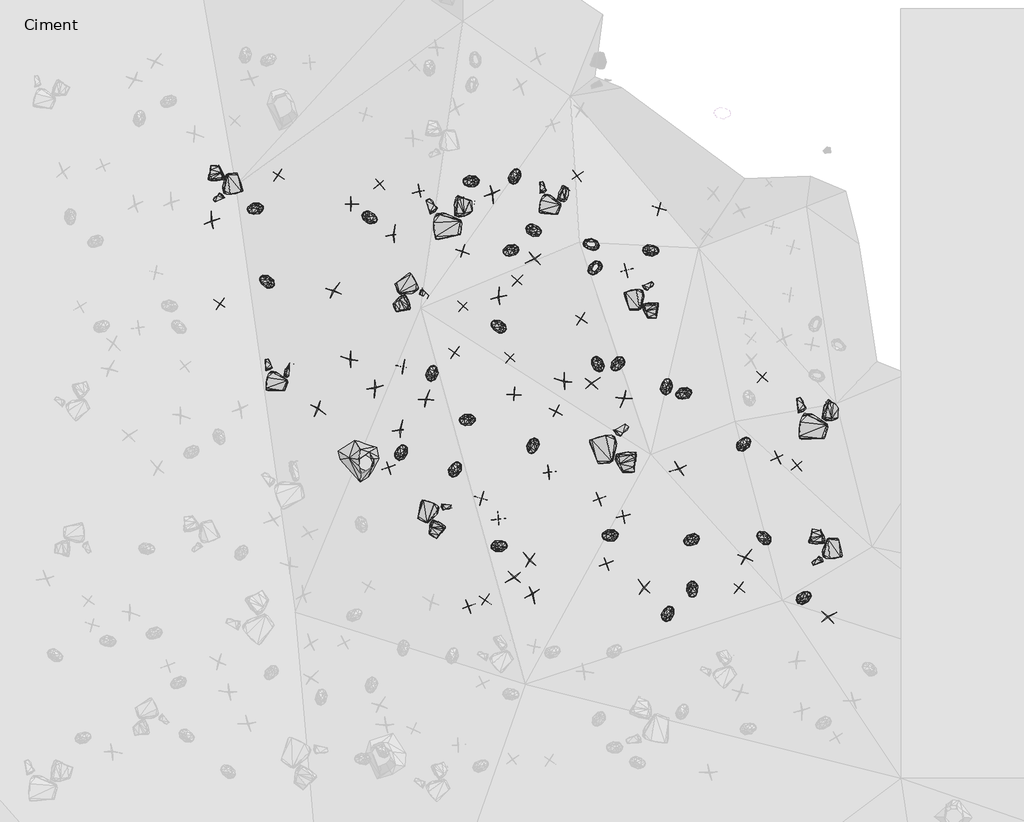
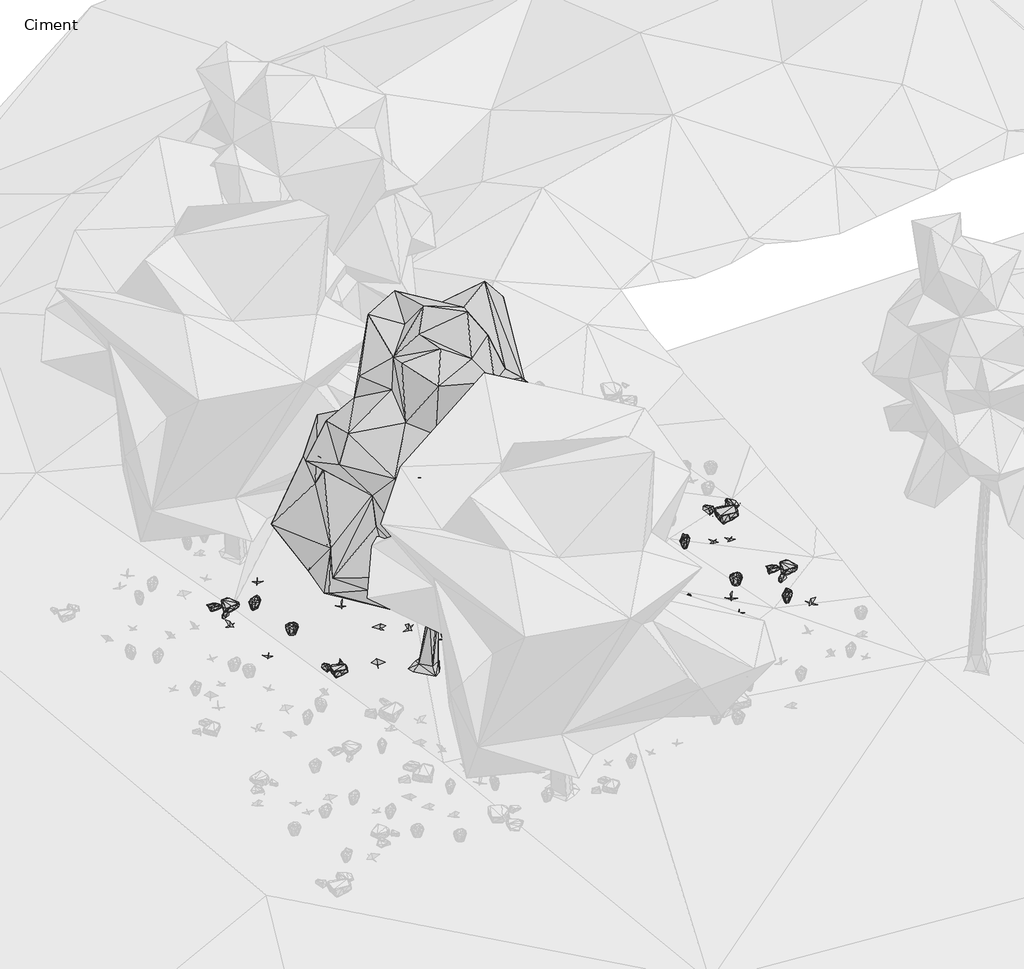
# One storey, part 10 of 30: 90 geographic elements.
"""IFC4 building model written with IfcOpenShell, lengths in millimetres."""

from ifc_helpers import new_model, si_unit, origin, place, context, project, spatial, transform, mapped, element, save
from components import enscape_assetdefinition_bush_025_fern_enscape_5718bf32, enscape_assetdefinition_bush_054_plant_09_version_2_enscape_7b546a12, enscape_assetdefinition_bush_062_plant_09_version_3_enscape_ccf8c8eb, enscape_assetdefinition_deciduous_tree_024_elm_enscape_8f9d8ef3, enscape_assetdefinition_stone_013_group_enscape_516da325, enscape_assetdefinition_stone_013_group_enscape_db9b3e91

model = new_model("IFC4")

# Units and contexts
model_context = context("Model", 3, world=origin())
ifc_project = project(units=[si_unit("LENGTHUNIT", "METRE", prefix="MILLI")], contexts=[model_context])

# Site, building, storey
site = spatial("IfcSite", under=ifc_project)
building = spatial("IfcBuilding", under=site)
storey = spatial("IfcBuildingStorey", under=building, Name="Ciment", Elevation=-1500.0)

# Geographic elements
placement = place(None, origin())
enscape_assetdefinition_bush_025_fern_enscape_shape = enscape_assetdefinition_bush_025_fern_enscape_5718bf32(model_context)
element("IfcGeographicElement", 1, ObjectType="Enscape AssetDefinition - Bush 025 Fern : Enscape AssetDefinition - Bush 025 Fern", at=placement, inside=storey, context=model_context, shape_type="MappedRepresentation", body=[
    mapped(enscape_assetdefinition_bush_025_fern_enscape_shape, transform((-7907.5417519, -3885.7479095, -876.049757), x_axis=(-0.9128690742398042, -0.4082524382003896, 0.0), y_axis=(0.4082524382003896, -0.9128690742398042, 0.0), z_axis=(0.0, 0.0, 1.0))),
])
element("IfcGeographicElement", 2, ObjectType="Enscape AssetDefinition - Bush 025 Fern : Enscape AssetDefinition - Bush 025 Fern", at=placement, inside=storey, context=model_context, shape_type="MappedRepresentation", body=[
    mapped(enscape_assetdefinition_bush_025_fern_enscape_shape, transform((-8446.846962, -1476.3221741, -658.6333513), x_axis=(0.9984156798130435, 0.05626837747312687, 0.0), y_axis=(-0.05626837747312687, 0.9984156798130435, 0.0), z_axis=(0.0, 0.0, 1.0))),
])
element("IfcGeographicElement", 3, ObjectType="Enscape AssetDefinition - Bush 025 Fern : Enscape AssetDefinition - Bush 025 Fern", at=placement, inside=storey, context=model_context, shape_type="MappedRepresentation", body=[
    mapped(enscape_assetdefinition_bush_025_fern_enscape_shape, transform((-10822.6242065, -1471.3115692, -713.2331133), x_axis=(-0.9062165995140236, -0.4228137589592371, 0.0), y_axis=(0.4228137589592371, -0.9062165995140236, 0.0), z_axis=(0.0, 0.0, 1.0))),
])
element("IfcGeographicElement", 4, ObjectType="Enscape AssetDefinition - Bush 025 Fern : Enscape AssetDefinition - Bush 025 Fern", at=placement, inside=storey, context=model_context, shape_type="MappedRepresentation", body=[
    mapped(enscape_assetdefinition_bush_025_fern_enscape_shape, transform((-7755.4244995, -7202.3220062, -1121.0637093), x_axis=(0.14993577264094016, -0.9886957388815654, 0.0), y_axis=(0.9886957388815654, 0.14993577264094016, 0.0), z_axis=(0.0, 0.0, 1.0))),
])
element("IfcGeographicElement", 5, ObjectType="Enscape AssetDefinition - Bush 025 Fern : Enscape AssetDefinition - Bush 025 Fern", at=placement, inside=storey, context=model_context, shape_type="MappedRepresentation", body=[
    mapped(enscape_assetdefinition_bush_025_fern_enscape_shape, transform((-8159.5344543, -7605.1192284, -1189.3703938), x_axis=(0.3196839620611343, 0.9475242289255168, 0.0), y_axis=(-0.9475242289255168, 0.3196839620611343, 0.0), z_axis=(0.0, 0.0, 1.0))),
])
element("IfcGeographicElement", 6, ObjectType="Enscape AssetDefinition - Bush 025 Fern : Enscape AssetDefinition - Bush 025 Fern", at=placement, inside=storey, context=model_context, shape_type="MappedRepresentation", body=[
    mapped(enscape_assetdefinition_bush_025_fern_enscape_shape, transform((-10449.5258331, -4777.4295807, -1108.3122492), x_axis=(-0.2271078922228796, -0.9738696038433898, 0.0), y_axis=(0.9738696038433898, -0.2271078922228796, 0.0), z_axis=(0.0, 0.0, 1.0))),
])
element("IfcGeographicElement", 7, ObjectType="Enscape AssetDefinition - Bush 025 Fern : Enscape AssetDefinition - Bush 025 Fern", at=placement, inside=storey, context=model_context, shape_type="MappedRepresentation", body=[
    mapped(enscape_assetdefinition_bush_025_fern_enscape_shape, transform((-5861.951828, -7337.4919891, -969.7445631), x_axis=(0.7450021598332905, 0.6670620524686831, 0.0), y_axis=(-0.6670620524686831, 0.7450021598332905, 0.0), z_axis=(0.0, 0.0, 1.0))),
])
element("IfcGeographicElement", 8, ObjectType="Enscape AssetDefinition - Bush 025 Fern : Enscape AssetDefinition - Bush 025 Fern", at=placement, inside=storey, context=model_context, shape_type="MappedRepresentation", body=[
    mapped(enscape_assetdefinition_bush_025_fern_enscape_shape, transform((-11750.2422333, -5163.4554863, -1242.5489426), x_axis=(0.3906701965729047, 0.9205307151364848, 0.0), y_axis=(-0.9205307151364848, 0.3906701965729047, 0.0), z_axis=(0.0, 0.0, 1.0))),
])
element("IfcGeographicElement", 9, ObjectType="Enscape AssetDefinition - Bush 025 Fern : Enscape AssetDefinition - Bush 025 Fern", at=placement, inside=storey, context=model_context, shape_type="MappedRepresentation", body=[
    mapped(enscape_assetdefinition_bush_025_fern_enscape_shape, transform((-7773.5157013, -6361.3014221, -1055.3160906), x_axis=(-0.8701918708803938, -0.492713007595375, 0.0), y_axis=(0.492713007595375, -0.8701918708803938, 0.0), z_axis=(0.0, 0.0, 1.0))),
])
element("IfcGeographicElement", 10, ObjectType="Enscape AssetDefinition - Bush 025 Fern : Enscape AssetDefinition - Bush 025 Fern", at=placement, inside=storey, context=model_context, shape_type="MappedRepresentation", body=[
    mapped(enscape_assetdefinition_bush_025_fern_enscape_shape, transform((-11561.1000061, -4332.321167, -1133.3770752), x_axis=(-0.9662915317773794, -0.25745033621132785, 0.0), y_axis=(0.25745033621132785, -0.9662915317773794, 0.0), z_axis=(0.0, 0.0, 1.0))),
])
element("IfcGeographicElement", 11, ObjectType="Enscape AssetDefinition - Bush 025 Fern : Enscape AssetDefinition - Bush 025 Fern", at=placement, inside=storey, context=model_context, shape_type="MappedRepresentation", body=[
    mapped(enscape_assetdefinition_bush_025_fern_enscape_shape, transform((-9402.7862549, -1771.5415955, -574.2764473), x_axis=(-0.6072560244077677, -0.7945062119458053, 0.0), y_axis=(0.7945062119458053, -0.6072560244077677, 0.0), z_axis=(0.0, 0.0, 1.0))),
])
element("IfcGeographicElement", 12, ObjectType="Enscape AssetDefinition - Bush 025 Fern : Enscape AssetDefinition - Bush 025 Fern", at=placement, inside=storey, context=model_context, shape_type="MappedRepresentation", body=[
    mapped(enscape_assetdefinition_bush_025_fern_enscape_shape, transform((-11003.8871765, -6469.66362, -1303.7599325), x_axis=(0.9633602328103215, 0.2682108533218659, 0.0), y_axis=(-0.2682108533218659, 0.9633602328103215, 0.0), z_axis=(0.0, 0.0, 1.0))),
])
element("IfcGeographicElement", 13, ObjectType="Enscape AssetDefinition - Bush 025 Fern : Enscape AssetDefinition - Bush 025 Fern", at=placement, inside=storey, context=model_context, shape_type="MappedRepresentation", body=[
    mapped(enscape_assetdefinition_bush_025_fern_enscape_shape, transform((-6548.5916138, -6320.2610016, -916.0360098), x_axis=(-0.8641005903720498, 0.50331915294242, 0.0), y_axis=(-0.50331915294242, -0.8641005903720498, 0.0), z_axis=(0.0, 0.0, 1.0))),
])
element("IfcGeographicElement", 14, ObjectType="Enscape AssetDefinition - Bush 025 Fern : Enscape AssetDefinition - Bush 025 Fern", at=placement, inside=storey, context=model_context, shape_type="MappedRepresentation", body=[
    mapped(enscape_assetdefinition_bush_025_fern_enscape_shape, transform((-8182.6000214, -3766.3021088, -917.0364141), x_axis=(0.08621997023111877, 0.9962761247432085, 0.0), y_axis=(-0.9962761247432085, 0.08621997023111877, 0.0), z_axis=(0.0, 0.0, 1.0))),
])
element("IfcGeographicElement", 15, ObjectType="Enscape AssetDefinition - Bush 025 Fern : Enscape AssetDefinition - Bush 025 Fern", at=placement, inside=storey, context=model_context, shape_type="MappedRepresentation", body=[
    mapped(enscape_assetdefinition_bush_025_fern_enscape_shape, transform((-9466.2685394, -1365.562439, -526.3630152), x_axis=(-0.990097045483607, 0.14038461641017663, 0.0), y_axis=(-0.14038461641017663, -0.990097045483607, 0.0), z_axis=(0.0, 0.0, 1.0))),
])
element("IfcGeographicElement", 16, ObjectType="Enscape AssetDefinition - Bush 025 Fern : Enscape AssetDefinition - Bush 025 Fern", at=placement, inside=storey, context=model_context, shape_type="MappedRepresentation", body=[
    mapped(enscape_assetdefinition_bush_025_fern_enscape_shape, transform((-10426.4202118, -1140.335083, -637.2642517), x_axis=(0.963608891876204, -0.2673161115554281, 0.0), y_axis=(0.2673161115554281, 0.963608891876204, 0.0), z_axis=(0.0, 0.0, 1.0))),
])
element("IfcGeographicElement", 17, ObjectType="Enscape AssetDefinition - Bush 025 Fern : Enscape AssetDefinition - Bush 025 Fern", at=placement, inside=storey, context=model_context, shape_type="MappedRepresentation", body=[
    mapped(enscape_assetdefinition_bush_025_fern_enscape_shape, transform((-15139.1563416, -763.0176544, -1905.2292109), x_axis=(-0.9538432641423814, -0.30030489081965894, 0.0), y_axis=(0.30030489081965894, -0.9538432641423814, 0.0), z_axis=(0.0, 0.0, 1.0))),
])
element("IfcGeographicElement", 18, ObjectType="Enscape AssetDefinition - Bush 025 Fern : Enscape AssetDefinition - Bush 025 Fern", at=placement, inside=storey, context=model_context, shape_type="MappedRepresentation", body=[
    mapped(enscape_assetdefinition_bush_025_fern_enscape_shape, transform((-10742.9599762, -216.7625427, -684.6904755), x_axis=(0.2709828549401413, 0.962584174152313, 0.0), y_axis=(-0.962584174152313, 0.2709828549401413, 0.0), z_axis=(0.0, 0.0, 1.0))),
])
element("IfcGeographicElement", 19, ObjectType="Enscape AssetDefinition - Bush 025 Fern : Enscape AssetDefinition - Bush 025 Fern", at=placement, inside=storey, context=model_context, shape_type="MappedRepresentation", body=[
    mapped(enscape_assetdefinition_bush_025_fern_enscape_shape, transform((-13196.6896057, -923.2139587, -1226.3838053), x_axis=(0.9445119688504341, -0.3284770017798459, 0.0), y_axis=(0.3284770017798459, 0.9445119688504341, 0.0), z_axis=(0.0, 0.0, 1.0))),
])
element("IfcGeographicElement", 20, ObjectType="Enscape AssetDefinition - Bush 025 Fern : Enscape AssetDefinition - Bush 025 Fern", at=placement, inside=storey, context=model_context, shape_type="MappedRepresentation", body=[
    mapped(enscape_assetdefinition_bush_025_fern_enscape_shape, transform((-6877.2068024, -4743.2250977, -775.5975723), x_axis=(0.6371173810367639, 0.7707667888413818, 0.0), y_axis=(-0.7707667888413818, 0.6371173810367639, 0.0), z_axis=(0.0, 0.0, 1.0))),
])
element("IfcGeographicElement", 21, ObjectType="Enscape AssetDefinition - Bush 025 Fern : Enscape AssetDefinition - Bush 025 Fern", at=placement, inside=storey, context=model_context, shape_type="MappedRepresentation", body=[
    mapped(enscape_assetdefinition_bush_025_fern_enscape_shape, transform((-12140.7184601, -3542.9289341, -1105.0349474), x_axis=(0.14560883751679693, 0.9893422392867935, 0.0), y_axis=(-0.9893422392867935, 0.14560883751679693, 0.0), z_axis=(0.0, 0.0, 1.0))),
])
element("IfcGeographicElement", 22, ObjectType="Enscape AssetDefinition - Bush 025 Fern : Enscape AssetDefinition - Bush 025 Fern", at=placement, inside=storey, context=model_context, shape_type="MappedRepresentation", body=[
    mapped(enscape_assetdefinition_bush_025_fern_enscape_shape, transform((-9349.1744995, -3383.9378357, -829.1467428), x_axis=(-0.5539950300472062, 0.8325199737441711, 0.0), y_axis=(-0.8325199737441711, -0.5539950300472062, 0.0), z_axis=(0.0, 0.0, 1.0))),
])
element("IfcGeographicElement", 23, ObjectType="Enscape AssetDefinition - Bush 025 Fern : Enscape AssetDefinition - Bush 025 Fern", at=placement, inside=storey, context=model_context, shape_type="MappedRepresentation", body=[
    mapped(enscape_assetdefinition_bush_025_fern_enscape_shape, transform((-12659.7652435, -4882.604599, -1359.9773645), x_axis=(0.33043938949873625, 0.9438272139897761, 0.0), y_axis=(-0.9438272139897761, 0.33043938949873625, 0.0), z_axis=(0.0, 0.0, 1.0))),
])
element("IfcGeographicElement", 24, ObjectType="Enscape AssetDefinition - Bush 025 Fern : Enscape AssetDefinition - Bush 025 Fern", at=placement, inside=storey, context=model_context, shape_type="MappedRepresentation", body=[
    mapped(enscape_assetdefinition_bush_025_fern_enscape_shape, transform((-11495.5253601, -301.0787964, -744.3662882), x_axis=(-0.9815713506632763, -0.19109600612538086, 0.0), y_axis=(0.19109600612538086, -0.9815713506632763, 0.0), z_axis=(0.0, 0.0, 1.0))),
])
element("IfcGeographicElement", 25, ObjectType="Enscape AssetDefinition - Bush 025 Fern : Enscape AssetDefinition - Bush 025 Fern", at=placement, inside=storey, context=model_context, shape_type="MappedRepresentation", body=[
    mapped(enscape_assetdefinition_bush_025_fern_enscape_shape, transform((-9149.0859985, -6283.4339142, -1171.7751026), x_axis=(-0.9756782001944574, -0.21920777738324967, 0.0), y_axis=(0.21920777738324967, -0.9756782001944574, 0.0), z_axis=(0.0, 0.0, 1.0))),
])
element("IfcGeographicElement", 26, ObjectType="Enscape AssetDefinition - Bush 025 Fern : Enscape AssetDefinition - Bush 025 Fern", at=placement, inside=storey, context=model_context, shape_type="MappedRepresentation", body=[
    mapped(enscape_assetdefinition_bush_025_fern_enscape_shape, transform((-14939.6791458, -1990.8542633, -1895.4497576), x_axis=(-0.8877526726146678, 0.4603207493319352, 0.0), y_axis=(-0.4603207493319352, -0.8877526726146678, 0.0), z_axis=(0.0, 0.0, 1.0))),
])
element("IfcGeographicElement", 27, ObjectType="Enscape AssetDefinition - Bush 025 Fern : Enscape AssetDefinition - Bush 025 Fern", at=placement, inside=storey, context=model_context, shape_type="MappedRepresentation", body=[
    mapped(enscape_assetdefinition_bush_025_fern_enscape_shape, transform((-9020.7138062, -3394.6819305, -793.8748598), x_axis=(-0.5369089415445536, -0.8436402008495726, 0.0), y_axis=(0.8436402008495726, -0.5369089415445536, 0.0), z_axis=(0.0, 0.0, 1.0))),
])
element("IfcGeographicElement", 28, ObjectType="Enscape AssetDefinition - Bush 025 Fern : Enscape AssetDefinition - Bush 025 Fern", at=placement, inside=storey, context=model_context, shape_type="MappedRepresentation", body=[
    mapped(enscape_assetdefinition_bush_025_fern_enscape_shape, transform((-11026.807785, -2748.6686707, -906.0528278), x_axis=(-0.9140017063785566, 0.4057103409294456, 0.0), y_axis=(-0.4057103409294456, -0.9140017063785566, 0.0), z_axis=(0.0, 0.0, 1.0))),
])
enscape_assetdefinition_bush_054_plant_09_version_2_enscape_shape = enscape_assetdefinition_bush_054_plant_09_version_2_enscape_7b546a12(model_context)
element("IfcGeographicElement", 29, ObjectType="Enscape AssetDefinition - Bush 054 Plant 09, Version 2 : Enscape AssetDefinition - Bush 054 Plant 09, Version 2", at=placement, inside=storey, context=model_context, shape_type="MappedRepresentation", body=[
    mapped(enscape_assetdefinition_bush_054_plant_09_version_2_enscape_shape, transform((-6570.6710815, -3613.6398315, -662.3373032), x_axis=(0.6448044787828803, 0.7643475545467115, 0.0), y_axis=(-0.7643475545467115, 0.6448044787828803, 0.0), z_axis=(0.0, 0.0, 1.0))),
])
element("IfcGeographicElement", 30, ObjectType="Enscape AssetDefinition - Bush 054 Plant 09, Version 2 : Enscape AssetDefinition - Bush 054 Plant 09, Version 2", at=placement, inside=storey, context=model_context, shape_type="MappedRepresentation", body=[
    mapped(enscape_assetdefinition_bush_054_plant_09_version_2_enscape_shape, transform((-9327.5642395, -5665.7562256, -1124.9754429), x_axis=(-0.9133419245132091, -0.4071934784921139, 0.0), y_axis=(0.4071934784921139, -0.9133419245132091, 0.0), z_axis=(0.0, 0.0, 1.0))),
])
element("IfcGeographicElement", 31, ObjectType="Enscape AssetDefinition - Bush 054 Plant 09, Version 2 : Enscape AssetDefinition - Bush 054 Plant 09, Version 2", at=placement, inside=storey, context=model_context, shape_type="MappedRepresentation", body=[
    mapped(enscape_assetdefinition_bush_054_plant_09_version_2_enscape_shape, transform((-5984.7450256, -5108.8027954, -721.2480307), x_axis=(0.7386538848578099, 0.6740848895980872, 0.0), y_axis=(-0.6740848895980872, 0.7386538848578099, 0.0), z_axis=(0.0, 0.0, 1.0))),
])
element("IfcGeographicElement", 32, ObjectType="Enscape AssetDefinition - Bush 054 Plant 09, Version 2 : Enscape AssetDefinition - Bush 054 Plant 09, Version 2", at=placement, inside=storey, context=model_context, shape_type="MappedRepresentation", body=[
    mapped(enscape_assetdefinition_bush_054_plant_09_version_2_enscape_shape, transform((-8869.1358566, -1803.75278, -640.9555674), x_axis=(-0.9539906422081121, -0.29983637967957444, 0.0), y_axis=(0.29983637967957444, -0.9539906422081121, 0.0), z_axis=(0.0, 0.0, 1.0))),
])
element("IfcGeographicElement", 33, ObjectType="Enscape AssetDefinition - Bush 054 Plant 09, Version 2 : Enscape AssetDefinition - Bush 054 Plant 09, Version 2", at=placement, inside=storey, context=model_context, shape_type="MappedRepresentation", body=[
    mapped(enscape_assetdefinition_bush_054_plant_09_version_2_enscape_shape, transform((-9699.4981766, -205.3928375, -503.9359331), x_axis=(-0.7781354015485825, -0.6280965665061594, 0.0), y_axis=(0.6280965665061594, -0.7781354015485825, 0.0), z_axis=(0.0, 0.0, 1.0))),
])
element("IfcGeographicElement", 34, ObjectType="Enscape AssetDefinition - Bush 054 Plant 09, Version 2 : Enscape AssetDefinition - Bush 054 Plant 09, Version 2", at=placement, inside=storey, context=model_context, shape_type="MappedRepresentation", body=[
    mapped(enscape_assetdefinition_bush_054_plant_09_version_2_enscape_shape, transform((-13025.0110626, -345.8557129, -1135.7991695), x_axis=(-0.694041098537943, 0.7199353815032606, 0.0), y_axis=(-0.7199353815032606, -0.694041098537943, 0.0), z_axis=(0.0, 0.0, 1.0))),
])
element("IfcGeographicElement", 35, ObjectType="Enscape AssetDefinition - Bush 054 Plant 09, Version 2 : Enscape AssetDefinition - Bush 054 Plant 09, Version 2", at=placement, inside=storey, context=model_context, shape_type="MappedRepresentation", body=[
    mapped(enscape_assetdefinition_bush_054_plant_09_version_2_enscape_shape, transform((-11314.5751953, -5664.642334, -1245.7172871), x_axis=(0.9762748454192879, -0.21653504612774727, 0.0), y_axis=(0.21653504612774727, 0.9762748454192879, 0.0), z_axis=(0.0, 0.0, 1.0))),
])
element("IfcGeographicElement", 36, ObjectType="Enscape AssetDefinition - Bush 054 Plant 09, Version 2 : Enscape AssetDefinition - Bush 054 Plant 09, Version 2", at=placement, inside=storey, context=model_context, shape_type="MappedRepresentation", body=[
    mapped(enscape_assetdefinition_bush_054_plant_09_version_2_enscape_shape, transform((-6958.7192535, -7168.8079834, -1047.3160744), x_axis=(-0.8220013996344, 0.5694854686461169, 0.0), y_axis=(-0.5694854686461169, -0.8220013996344, 0.0), z_axis=(0.0, 0.0, 1.0))),
])
element("IfcGeographicElement", 37, ObjectType="Enscape AssetDefinition - Bush 054 Plant 09, Version 2 : Enscape AssetDefinition - Bush 054 Plant 09, Version 2", at=placement, inside=storey, context=model_context, shape_type="MappedRepresentation", body=[
    mapped(enscape_assetdefinition_bush_054_plant_09_version_2_enscape_shape, transform((-13511.0044479, -681.8351746, -1325.1684904), x_axis=(-0.9981365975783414, -0.061019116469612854, 0.0), y_axis=(0.061019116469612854, -0.9981365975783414, 0.0), z_axis=(0.0, 0.0, 1.0))),
])
element("IfcGeographicElement", 38, ObjectType="Enscape AssetDefinition - Bush 054 Plant 09, Version 2 : Enscape AssetDefinition - Bush 054 Plant 09, Version 2", at=placement, inside=storey, context=model_context, shape_type="MappedRepresentation", body=[
    mapped(enscape_assetdefinition_bush_054_plant_09_version_2_enscape_shape, transform((-14740.9362793, -197.7672577, -1735.4959249), x_axis=(-0.8728683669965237, 0.48795574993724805, 0.0), y_axis=(-0.48795574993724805, -0.8728683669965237, 0.0), z_axis=(0.0, 0.0, 1.0))),
])
element("IfcGeographicElement", 39, ObjectType="Enscape AssetDefinition - Bush 054 Plant 09, Version 2 : Enscape AssetDefinition - Bush 054 Plant 09, Version 2", at=placement, inside=storey, context=model_context, shape_type="MappedRepresentation", body=[
    mapped(enscape_assetdefinition_bush_054_plant_09_version_2_enscape_shape, transform((-11622.625351, -2414.7281647, -914.0965939), x_axis=(0.7921788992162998, -0.6102889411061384, 0.0), y_axis=(0.6102889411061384, 0.7921788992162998, 0.0), z_axis=(0.0, 0.0, 1.0))),
])
element("IfcGeographicElement", 40, ObjectType="Enscape AssetDefinition - Bush 054 Plant 09, Version 2 : Enscape AssetDefinition - Bush 054 Plant 09, Version 2", at=placement, inside=storey, context=model_context, shape_type="MappedRepresentation", body=[
    mapped(enscape_assetdefinition_bush_054_plant_09_version_2_enscape_shape, transform((-8307.8327179, -767.3549652, -672.6429462), x_axis=(0.21217108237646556, 0.9772325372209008, 0.0), y_axis=(-0.9772325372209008, 0.21217108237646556, 0.0), z_axis=(0.0, 0.0, 1.0))),
])
element("IfcGeographicElement", 41, ObjectType="Enscape AssetDefinition - Bush 054 Plant 09, Version 2 : Enscape AssetDefinition - Bush 054 Plant 09, Version 2", at=placement, inside=storey, context=model_context, shape_type="MappedRepresentation", body=[
    mapped(enscape_assetdefinition_bush_054_plant_09_version_2_enscape_shape, transform((-10058.008194, -4187.5534058, -1028.124094), x_axis=(-0.41270720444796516, -0.9108637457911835, 0.0), y_axis=(0.9108637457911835, -0.41270720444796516, 0.0), z_axis=(0.0, 0.0, 1.0))),
])
element("IfcGeographicElement", 42, ObjectType="Enscape AssetDefinition - Bush 054 Plant 09, Version 2 : Enscape AssetDefinition - Bush 054 Plant 09, Version 2", at=placement, inside=storey, context=model_context, shape_type="MappedRepresentation", body=[
    mapped(enscape_assetdefinition_bush_054_plant_09_version_2_enscape_shape, transform((-12875.3738403, -5140.3746605, -1428.4523726), x_axis=(-0.3772648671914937, 0.9261054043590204, 0.0), y_axis=(-0.9261054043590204, -0.3772648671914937, 0.0), z_axis=(0.0, 0.0, 1.0))),
])
element("IfcGeographicElement", 43, ObjectType="Enscape AssetDefinition - Bush 054 Plant 09, Version 2 : Enscape AssetDefinition - Bush 054 Plant 09, Version 2", at=placement, inside=storey, context=model_context, shape_type="MappedRepresentation", body=[
    mapped(enscape_assetdefinition_bush_054_plant_09_version_2_enscape_shape, transform((-12363.5692596, -471.7502594, -908.187151), x_axis=(0.24179541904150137, -0.9703272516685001, 0.0), y_axis=(0.9703272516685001, 0.24179541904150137, 0.0), z_axis=(0.0, 0.0, 1.0))),
])
element("IfcGeographicElement", 44, ObjectType="Enscape AssetDefinition - Bush 054 Plant 09, Version 2 : Enscape AssetDefinition - Bush 054 Plant 09, Version 2", at=placement, inside=storey, context=model_context, shape_type="MappedRepresentation", body=[
    mapped(enscape_assetdefinition_bush_054_plant_09_version_2_enscape_shape, transform((-6313.1332397, -4975.6031036, -743.5455322), x_axis=(0.8747211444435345, 0.48462657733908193, 0.0), y_axis=(-0.48462657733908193, 0.8747211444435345, 0.0), z_axis=(0.0, 0.0, 1.0))),
])
element("IfcGeographicElement", 45, ObjectType="Enscape AssetDefinition - Bush 054 Plant 09, Version 2 : Enscape AssetDefinition - Bush 054 Plant 09, Version 2", at=placement, inside=storey, context=model_context, shape_type="MappedRepresentation", body=[
    mapped(enscape_assetdefinition_bush_054_plant_09_version_2_enscape_shape, transform((-9199.0604401, -6763.8459206, -1214.7109509), x_axis=(-0.3818291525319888, 0.9242329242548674, 0.0), y_axis=(-0.9242329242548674, -0.3818291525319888, 0.0), z_axis=(0.0, 0.0, 1.0))),
])
element("IfcGeographicElement", 46, ObjectType="Enscape AssetDefinition - Bush 054 Plant 09, Version 2 : Enscape AssetDefinition - Bush 054 Plant 09, Version 2", at=placement, inside=storey, context=model_context, shape_type="MappedRepresentation", body=[
    mapped(enscape_assetdefinition_bush_054_plant_09_version_2_enscape_shape, transform((-8912.5080109, -5964.0293121, -1125.0903606), x_axis=(-0.23837470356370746, 0.9711732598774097, 0.0), y_axis=(-0.9711732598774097, -0.23837470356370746, 0.0), z_axis=(0.0, 0.0, 1.0))),
])
element("IfcGeographicElement", 47, ObjectType="Enscape AssetDefinition - Bush 054 Plant 09, Version 2 : Enscape AssetDefinition - Bush 054 Plant 09, Version 2", at=placement, inside=storey, context=model_context, shape_type="MappedRepresentation", body=[
    mapped(enscape_assetdefinition_bush_054_plant_09_version_2_enscape_shape, transform((-11253.2234192, -7375.0095367, -1436.2342358), x_axis=(-0.5281440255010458, -0.8491548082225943, 0.0), y_axis=(0.8491548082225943, -0.5281440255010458, 0.0), z_axis=(0.0, 0.0, 1.0))),
])
element("IfcGeographicElement", 48, ObjectType="Enscape AssetDefinition - Bush 054 Plant 09, Version 2 : Enscape AssetDefinition - Bush 054 Plant 09, Version 2", at=placement, inside=storey, context=model_context, shape_type="MappedRepresentation", body=[
    mapped(enscape_assetdefinition_bush_054_plant_09_version_2_enscape_shape, transform((-9627.8476715, -2625.787735, -725.8238792), x_axis=(-0.8745556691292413, 0.48492512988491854, 0.0), y_axis=(-0.48492512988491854, -0.8745556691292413, 0.0), z_axis=(0.0, 0.0, 1.0))),
])
element("IfcGeographicElement", 49, ObjectType="Enscape AssetDefinition - Bush 054 Plant 09, Version 2 : Enscape AssetDefinition - Bush 054 Plant 09, Version 2", at=placement, inside=storey, context=model_context, shape_type="MappedRepresentation", body=[
    mapped(enscape_assetdefinition_bush_054_plant_09_version_2_enscape_shape, transform((-10171.5545654, -5216.0873413, -1133.3301067), x_axis=(-0.988315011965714, -0.15242518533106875, 0.0), y_axis=(0.15242518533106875, -0.988315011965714, 0.0), z_axis=(0.0, 0.0, 1.0))),
])
element("IfcGeographicElement", 50, ObjectType="Enscape AssetDefinition - Bush 054 Plant 09, Version 2 : Enscape AssetDefinition - Bush 054 Plant 09, Version 2", at=placement, inside=storey, context=model_context, shape_type="MappedRepresentation", body=[
    mapped(enscape_assetdefinition_bush_054_plant_09_version_2_enscape_shape, transform((-11530.2867889, -7481.071949, -1496.0135221), x_axis=(-0.9218628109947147, -0.3875163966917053, 0.0), y_axis=(0.3875163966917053, -0.9218628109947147, 0.0), z_axis=(0.0, 0.0, 1.0))),
])
element("IfcGeographicElement", 51, ObjectType="Enscape AssetDefinition - Bush 054 Plant 09, Version 2 : Enscape AssetDefinition - Bush 054 Plant 09, Version 2", at=placement, inside=storey, context=model_context, shape_type="MappedRepresentation", body=[
    mapped(enscape_assetdefinition_bush_054_plant_09_version_2_enscape_shape, transform((-12637.8993988, -3441.9784546, -1175.8130789), x_axis=(0.9927714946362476, -0.12001982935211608, 0.0), y_axis=(0.12001982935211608, 0.9927714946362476, 0.0), z_axis=(0.0, 0.0, 1.0))),
])
element("IfcGeographicElement", 52, ObjectType="Enscape AssetDefinition - Bush 054 Plant 09, Version 2 : Enscape AssetDefinition - Bush 054 Plant 09, Version 2", at=placement, inside=storey, context=model_context, shape_type="MappedRepresentation", body=[
    mapped(enscape_assetdefinition_bush_054_plant_09_version_2_enscape_shape, transform((-11030.5233002, -6006.0558319, -1261.0715628), x_axis=(0.12800365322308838, -0.9917736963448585, 0.0), y_axis=(0.9917736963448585, 0.12800365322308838, 0.0), z_axis=(0.0, 0.0, 1.0))),
])
element("IfcGeographicElement", 53, ObjectType="Enscape AssetDefinition - Bush 054 Plant 09, Version 2 : Enscape AssetDefinition - Bush 054 Plant 09, Version 2", at=placement, inside=storey, context=model_context, shape_type="MappedRepresentation", body=[
    mapped(enscape_assetdefinition_bush_054_plant_09_version_2_enscape_shape, transform((-11769.7372437, -3200.7026672, -1037.9139185), x_axis=(0.8451724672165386, -0.5344936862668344, 0.0), y_axis=(0.5344936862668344, 0.8451724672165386, 0.0), z_axis=(0.0, 0.0, 1.0))),
])
element("IfcGeographicElement", 54, ObjectType="Enscape AssetDefinition - Bush 054 Plant 09, Version 2 : Enscape AssetDefinition - Bush 054 Plant 09, Version 2", at=placement, inside=storey, context=model_context, shape_type="MappedRepresentation", body=[
    mapped(enscape_assetdefinition_bush_054_plant_09_version_2_enscape_shape, transform((-11636.4307404, -1486.3663912, -861.849308), x_axis=(-0.24786877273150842, -0.9687936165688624, 0.0), y_axis=(0.9687936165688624, -0.24786877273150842, 0.0), z_axis=(0.0, 0.0, 1.0))),
])
element("IfcGeographicElement", 55, ObjectType="Enscape AssetDefinition - Bush 054 Plant 09, Version 2 : Enscape AssetDefinition - Bush 054 Plant 09, Version 2", at=placement, inside=storey, context=model_context, shape_type="MappedRepresentation", body=[
    mapped(enscape_assetdefinition_bush_054_plant_09_version_2_enscape_shape, transform((-15732.257843, -2374.5877743, -2000.0), x_axis=(0.8495627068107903, -0.5274876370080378, 0.0), y_axis=(0.5274876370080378, 0.8495627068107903, 0.0), z_axis=(0.0, 0.0, 1.0))),
])
element("IfcGeographicElement", 56, ObjectType="Enscape AssetDefinition - Bush 054 Plant 09, Version 2 : Enscape AssetDefinition - Bush 054 Plant 09, Version 2", at=placement, inside=storey, context=model_context, shape_type="MappedRepresentation", body=[
    mapped(enscape_assetdefinition_bush_054_plant_09_version_2_enscape_shape, transform((-10764.9993896, -3904.7222137, -1044.0918207), x_axis=(0.00522196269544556, -0.9999863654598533, 0.0), y_axis=(0.9999863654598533, 0.00522196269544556, 0.0), z_axis=(0.0, 0.0, 1.0))),
])
element("IfcGeographicElement", 57, ObjectType="Enscape AssetDefinition - Bush 054 Plant 09, Version 2 : Enscape AssetDefinition - Bush 054 Plant 09, Version 2", at=placement, inside=storey, context=model_context, shape_type="MappedRepresentation", body=[
    mapped(enscape_assetdefinition_bush_054_plant_09_version_2_enscape_shape, transform((-10712.8801346, -1981.6759825, -734.0716124), x_axis=(0.7630369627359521, -0.6463548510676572, 0.0), y_axis=(0.6463548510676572, 0.7630369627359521, 0.0), z_axis=(0.0, 0.0, 1.0))),
])
element("IfcGeographicElement", 58, ObjectType="Enscape AssetDefinition - Bush 054 Plant 09, Version 2 : Enscape AssetDefinition - Bush 054 Plant 09, Version 2", at=placement, inside=storey, context=model_context, shape_type="MappedRepresentation", body=[
    mapped(enscape_assetdefinition_bush_054_plant_09_version_2_enscape_shape, transform((-10829.0309906, -3283.8535309, -978.8694382), x_axis=(0.7849557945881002, -0.6195517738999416, 0.0), y_axis=(0.6195517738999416, 0.7849557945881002, 0.0), z_axis=(0.0, 0.0, 1.0))),
])
enscape_assetdefinition_bush_062_plant_09_version_3_enscape_shape = enscape_assetdefinition_bush_062_plant_09_version_3_enscape_ccf8c8eb(model_context)
element("IfcGeographicElement", 59, ObjectType="Enscape AssetDefinition - Bush 062 Plant 09, Version 3 : Enscape AssetDefinition - Bush 062 Plant 09, Version 3", at=placement, inside=storey, context=model_context, shape_type="MappedRepresentation", body=[
    mapped(enscape_assetdefinition_bush_062_plant_09_version_3_enscape_shape, transform((-13800.9614944, -2141.6950226, -1501.6206503), x_axis=(0.9755731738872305, -0.21967471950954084, 0.0), y_axis=(0.21967471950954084, 0.9755731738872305, 0.0), z_axis=(0.0, 0.0, 1.0))),
])
element("IfcGeographicElement", 60, ObjectType="Enscape AssetDefinition - Bush 062 Plant 09, Version 3 : Enscape AssetDefinition - Bush 062 Plant 09, Version 3", at=placement, inside=storey, context=model_context, shape_type="MappedRepresentation", body=[
    mapped(enscape_assetdefinition_bush_062_plant_09_version_3_enscape_shape, transform((-8907.2570801, -3983.0265045, -885.6935501), x_axis=(-0.999591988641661, -0.02856319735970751, 0.0), y_axis=(0.02856319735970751, -0.999591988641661, 0.0), z_axis=(0.0, 0.0, 1.0))),
])
element("IfcGeographicElement", 61, ObjectType="Enscape AssetDefinition - Bush 062 Plant 09, Version 3 : Enscape AssetDefinition - Bush 062 Plant 09, Version 3", at=placement, inside=storey, context=model_context, shape_type="MappedRepresentation", body=[
    mapped(enscape_assetdefinition_bush_062_plant_09_version_3_enscape_shape, transform((-10506.1607361, -6695.8751678, -1295.1083183), x_axis=(0.4711259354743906, 0.8820659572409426, 0.0), y_axis=(-0.8820659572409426, 0.4711259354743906, 0.0), z_axis=(0.0, 0.0, 1.0))),
])
element("IfcGeographicElement", 62, ObjectType="Enscape AssetDefinition - Bush 062 Plant 09, Version 3 : Enscape AssetDefinition - Bush 062 Plant 09, Version 3", at=placement, inside=storey, context=model_context, shape_type="MappedRepresentation", body=[
    mapped(enscape_assetdefinition_bush_062_plant_09_version_3_enscape_shape, transform((-10427.4921417, -1620.8019257, -642.8257227), x_axis=(-0.7427754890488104, 0.6695405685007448, 0.0), y_axis=(-0.6695405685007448, -0.7427754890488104, 0.0), z_axis=(0.0, 0.0, 1.0))),
])
element("IfcGeographicElement", 63, ObjectType="Enscape AssetDefinition - Bush 062 Plant 09, Version 3 : Enscape AssetDefinition - Bush 062 Plant 09, Version 3", at=placement, inside=storey, context=model_context, shape_type="MappedRepresentation", body=[
    mapped(enscape_assetdefinition_bush_062_plant_09_version_3_enscape_shape, transform((-13540.9469604, -3310.3694916, -1467.5923586), x_axis=(-0.09589601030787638, 0.9953913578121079, 0.0), y_axis=(-0.9953913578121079, -0.09589601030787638, 0.0), z_axis=(0.0, 0.0, 1.0))),
])
element("IfcGeographicElement", 64, ObjectType="Enscape AssetDefinition - Bush 062 Plant 09, Version 3 : Enscape AssetDefinition - Bush 062 Plant 09, Version 3", at=placement, inside=storey, context=model_context, shape_type="MappedRepresentation", body=[
    mapped(enscape_assetdefinition_bush_062_plant_09_version_3_enscape_shape, transform((-9444.4046021, -3706.9301605, -897.3855972), x_axis=(0.8250758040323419, -0.5650220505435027, 0.0), y_axis=(0.5650220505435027, 0.8250758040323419, 0.0), z_axis=(0.0, 0.0, 1.0))),
])
element("IfcGeographicElement", 65, ObjectType="Enscape AssetDefinition - Bush 062 Plant 09, Version 3 : Enscape AssetDefinition - Bush 062 Plant 09, Version 3", at=placement, inside=storey, context=model_context, shape_type="MappedRepresentation", body=[
    mapped(enscape_assetdefinition_bush_062_plant_09_version_3_enscape_shape, transform((-10446.7906952, -7287.2710228, -1348.0193615), x_axis=(-0.8132029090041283, -0.5819802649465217, 0.0), y_axis=(0.5819802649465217, -0.8132029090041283, 0.0), z_axis=(0.0, 0.0, 1.0))),
])
element("IfcGeographicElement", 66, ObjectType="Enscape AssetDefinition - Bush 062 Plant 09, Version 3 : Enscape AssetDefinition - Bush 062 Plant 09, Version 3", at=placement, inside=storey, context=model_context, shape_type="MappedRepresentation", body=[
    mapped(enscape_assetdefinition_bush_062_plant_09_version_3_enscape_shape, transform((-13106.0523987, -3803.9951324, -1338.6713266), x_axis=(-0.9538356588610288, -0.3003290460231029, 0.0), y_axis=(0.3003290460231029, -0.9538356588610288, 0.0), z_axis=(0.0, 0.0, 1.0))),
])
element("IfcGeographicElement", 67, ObjectType="Enscape AssetDefinition - Bush 062 Plant 09, Version 3 : Enscape AssetDefinition - Bush 062 Plant 09, Version 3", at=placement, inside=storey, context=model_context, shape_type="MappedRepresentation", body=[
    mapped(enscape_assetdefinition_bush_062_plant_09_version_3_enscape_shape, transform((-9930.6850433, -3680.757761, -947.7790594), x_axis=(-0.14240766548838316, 0.9898080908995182, 0.0), y_axis=(-0.9898080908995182, -0.14240766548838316, 0.0), z_axis=(0.0, 0.0, 1.0))),
])
element("IfcGeographicElement", 68, ObjectType="Enscape AssetDefinition - Bush 062 Plant 09, Version 3 : Enscape AssetDefinition - Bush 062 Plant 09, Version 3", at=placement, inside=storey, context=model_context, shape_type="MappedRepresentation", body=[
    mapped(enscape_assetdefinition_bush_062_plant_09_version_3_enscape_shape, transform((-12794.7025299, -1191.6351318, -1097.9655981), x_axis=(0.9662446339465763, 0.2576262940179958, 0.0), y_axis=(-0.2576262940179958, 0.9662446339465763, 0.0), z_axis=(0.0, 0.0, 1.0))),
])
element("IfcGeographicElement", 69, ObjectType="Enscape AssetDefinition - Bush 062 Plant 09, Version 3 : Enscape AssetDefinition - Bush 062 Plant 09, Version 3", at=placement, inside=storey, context=model_context, shape_type="MappedRepresentation", body=[
    mapped(enscape_assetdefinition_bush_062_plant_09_version_3_enscape_shape, transform((-10770.4267502, -7003.4332275, -1340.5748606), x_axis=(-0.7955741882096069, 0.6058561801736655, 0.0), y_axis=(-0.6058561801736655, -0.7955741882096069, 0.0), z_axis=(0.0, 0.0, 1.0))),
])
element("IfcGeographicElement", 70, ObjectType="Enscape AssetDefinition - Bush 062 Plant 09, Version 3 : Enscape AssetDefinition - Bush 062 Plant 09, Version 3", at=placement, inside=storey, context=model_context, shape_type="MappedRepresentation", body=[
    mapped(enscape_assetdefinition_bush_062_plant_09_version_3_enscape_shape, transform((-15871.5105057, -962.6407623, -1999.9998808), x_axis=(0.9036660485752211, 0.42823786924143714, 0.0), y_axis=(-0.42823786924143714, 0.9036660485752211, 0.0), z_axis=(0.0, 0.0, 1.0))),
])
element("IfcGeographicElement", 71, ObjectType="Enscape AssetDefinition - Bush 062 Plant 09, Version 3 : Enscape AssetDefinition - Bush 062 Plant 09, Version 3", at=placement, inside=storey, context=model_context, shape_type="MappedRepresentation", body=[
    mapped(enscape_assetdefinition_bush_062_plant_09_version_3_enscape_shape, transform((-6852.8132439, -6648.5385895, -994.4232702), x_axis=(0.9604180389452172, -0.27856272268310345, 0.0), y_axis=(0.27856272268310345, 0.9604180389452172, 0.0), z_axis=(0.0, 0.0, 1.0))),
])
element("IfcGeographicElement", 72, ObjectType="Enscape AssetDefinition - Bush 062 Plant 09, Version 3 : Enscape AssetDefinition - Bush 062 Plant 09, Version 3", at=placement, inside=storey, context=model_context, shape_type="MappedRepresentation", body=[
    mapped(enscape_assetdefinition_bush_062_plant_09_version_3_enscape_shape, transform((-8577.7750015, -7159.6450806, -1190.9960508), x_axis=(0.5304053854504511, 0.8477441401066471, 0.0), y_axis=(-0.8477441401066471, 0.5304053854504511, 0.0), z_axis=(0.0, 0.0, 1.0))),
])
element("IfcGeographicElement", 73, ObjectType="Enscape AssetDefinition - Bush 062 Plant 09, Version 3 : Enscape AssetDefinition - Bush 062 Plant 09, Version 3", at=placement, inside=storey, context=model_context, shape_type="MappedRepresentation", body=[
    mapped(enscape_assetdefinition_bush_062_plant_09_version_3_enscape_shape, transform((-7988.9278412, -5167.8905487, -969.1084623), x_axis=(-0.6239123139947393, 0.7814943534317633, 0.0), y_axis=(-0.7814943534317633, -0.6239123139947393, 0.0), z_axis=(0.0, 0.0, 1.0))),
])
element("IfcGeographicElement", 74, ObjectType="Enscape AssetDefinition - Bush 062 Plant 09, Version 3 : Enscape AssetDefinition - Bush 062 Plant 09, Version 3", at=placement, inside=storey, context=model_context, shape_type="MappedRepresentation", body=[
    mapped(enscape_assetdefinition_bush_062_plant_09_version_3_enscape_shape, transform((-14063.6587143, -4148.2391357, -1693.0807829), x_axis=(-0.26820980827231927, -0.9633605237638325, 0.0), y_axis=(0.9633605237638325, -0.26820980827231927, 0.0), z_axis=(0.0, 0.0, 1.0))),
])
element("IfcGeographicElement", 75, ObjectType="Enscape AssetDefinition - Bush 062 Plant 09, Version 3 : Enscape AssetDefinition - Bush 062 Plant 09, Version 3", at=placement, inside=storey, context=model_context, shape_type="MappedRepresentation", body=[
    mapped(enscape_assetdefinition_bush_062_plant_09_version_3_enscape_shape, transform((-11124.5307922, -521.2020874, -740.8487797), x_axis=(-0.8831598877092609, -0.46907207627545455, 0.0), y_axis=(0.46907207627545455, -0.8831598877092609, 0.0), z_axis=(0.0, 0.0, 1.0))),
])
element("IfcGeographicElement", 76, ObjectType="Enscape AssetDefinition - Bush 062 Plant 09, Version 3 : Enscape AssetDefinition - Bush 062 Plant 09, Version 3", at=placement, inside=storey, context=model_context, shape_type="MappedRepresentation", body=[
    mapped(enscape_assetdefinition_bush_062_plant_09_version_3_enscape_shape, transform((-11023.9715576, -2245.6474304, -816.2475824), x_axis=(0.9421240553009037, 0.3352644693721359, 0.0), y_axis=(-0.3352644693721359, 0.9421240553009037, 0.0), z_axis=(0.0, 0.0, 1.0))),
])
element("IfcGeographicElement", 77, ObjectType="Enscape AssetDefinition - Bush 062 Plant 09, Version 3 : Enscape AssetDefinition - Bush 062 Plant 09, Version 3", at=placement, inside=storey, context=model_context, shape_type="MappedRepresentation", body=[
    mapped(enscape_assetdefinition_bush_062_plant_09_version_3_enscape_shape, transform((-12244.3084717, -3974.571228, -1176.4976978), x_axis=(0.9985656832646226, 0.053540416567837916, 0.0), y_axis=(-0.053540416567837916, 0.9985656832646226, 0.0), z_axis=(0.0, 0.0, 1.0))),
])
element("IfcGeographicElement", 78, ObjectType="Enscape AssetDefinition - Bush 062 Plant 09, Version 3 : Enscape AssetDefinition - Bush 062 Plant 09, Version 3", at=placement, inside=storey, context=model_context, shape_type="MappedRepresentation", body=[
    mapped(enscape_assetdefinition_bush_062_plant_09_version_3_enscape_shape, transform((-12679.5482635, -4490.9496307, -1314.2266273), x_axis=(0.9834588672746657, 0.18113159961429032, 0.0), y_axis=(-0.18113159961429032, 0.9834588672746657, 0.0), z_axis=(0.0, 0.0, 1.0))),
])
element("IfcGeographicElement", 79, ObjectType="Enscape AssetDefinition - Bush 062 Plant 09, Version 3 : Enscape AssetDefinition - Bush 062 Plant 09, Version 3", at=placement, inside=storey, context=model_context, shape_type="MappedRepresentation", body=[
    mapped(enscape_assetdefinition_bush_062_plant_09_version_3_enscape_shape, transform((-5454.2121887, -7657.3104858, -1001.940608), x_axis=(0.7827256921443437, -0.6223668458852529, 0.0), y_axis=(0.6223668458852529, 0.7827256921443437, 0.0), z_axis=(0.0, 0.0, 1.0))),
])
enscape_assetdefinition_deciduous_tree_024_elm_enscape_shape = enscape_assetdefinition_deciduous_tree_024_elm_enscape_8f9d8ef3(model_context)
element("IfcGeographicElement", 80, ObjectType="Enscape AssetDefinition - Deciduous Tree 024 Elm : Enscape AssetDefinition - Deciduous Tree 024 Elm", at=placement, inside=storey, context=model_context, shape_type="MappedRepresentation", body=[
    mapped(enscape_assetdefinition_deciduous_tree_024_elm_enscape_shape, transform((-13306.5042496, -4903.2077789, -1471.0803032), x_axis=(-0.9916160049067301, -0.1292195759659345, 0.0), y_axis=(0.1292195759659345, -0.9916160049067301, 0.0), z_axis=(0.0, 0.0, 1.0))),
])
enscape_assetdefinition_stone_013_group_enscape_shape = enscape_assetdefinition_stone_013_group_enscape_516da325(model_context)
element("IfcGeographicElement", 81, ObjectType="Enscape AssetDefinition - Stone 013 Group : Enscape AssetDefinition - Stone 013 Group", at=placement, inside=storey, context=model_context, shape_type="MappedRepresentation", body=[
    mapped(enscape_assetdefinition_stone_013_group_enscape_shape, transform((-11895.8282471, -859.0258956, -822.7517605), x_axis=(-0.9958357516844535, -0.09116553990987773, 0.0), y_axis=(0.09116553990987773, -0.9958357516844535, 0.0), z_axis=(0.0, 0.0, 1.0))),
])
element("IfcGeographicElement", 82, ObjectType="Enscape AssetDefinition - Stone 013 Group : Enscape AssetDefinition - Stone 013 Group", at=placement, inside=storey, context=model_context, shape_type="MappedRepresentation", body=[
    mapped(enscape_assetdefinition_stone_013_group_enscape_shape, transform((-9037.8437042, -4788.0687714, -1023.4714746), x_axis=(-0.26596341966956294, 0.9639831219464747, 0.0), y_axis=(-0.9639831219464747, -0.26596341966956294, 0.0), z_axis=(0.0, 0.0, 1.0))),
])
element("IfcGeographicElement", 83, ObjectType="Enscape AssetDefinition - Stone 013 Group : Enscape AssetDefinition - Stone 013 Group", at=placement, inside=storey, context=model_context, shape_type="MappedRepresentation", body=[
    mapped(enscape_assetdefinition_stone_013_group_enscape_shape, transform((-5687.0651245, -4265.6497955, -572.0574856), x_axis=(-0.9968596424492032, 0.07918871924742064, 0.0), y_axis=(-0.07918871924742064, -0.9968596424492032, 0.0), z_axis=(0.0, 0.0, 1.0))),
])
enscape_assetdefinition_stone_013_group_enscape_2_shape = enscape_assetdefinition_stone_013_group_enscape_db9b3e91(model_context)
element("IfcGeographicElement", 84, ObjectType="Enscape AssetDefinition - Stone 013 Group : Enscape AssetDefinition - Stone 013 Group 2", at=placement, inside=storey, context=model_context, shape_type="MappedRepresentation", body=[
    mapped(enscape_assetdefinition_stone_013_group_enscape_2_shape, transform((-5544.3935394, -6518.8388824, -836.6076946), x_axis=(0.12839674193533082, -0.9917228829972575, 0.0), y_axis=(0.9917228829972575, 0.12839674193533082, 0.0), z_axis=(0.0, 0.0, 1.0))),
])
element("IfcGeographicElement", 85, ObjectType="Enscape AssetDefinition - Stone 013 Group : Enscape AssetDefinition - Stone 013 Group 2", at=placement, inside=storey, context=model_context, shape_type="MappedRepresentation", body=[
    mapped(enscape_assetdefinition_stone_013_group_enscape_2_shape, transform((-14743.4968948, -3549.7989655, -1903.1502008), x_axis=(-0.991936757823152, 0.12673384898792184, 0.0), y_axis=(-0.12673384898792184, -0.991936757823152, 0.0), z_axis=(0.0, 0.0, 1.0))),
])
element("IfcGeographicElement", 86, ObjectType="Enscape AssetDefinition - Stone 013 Group : Enscape AssetDefinition - Stone 013 Group 2", at=placement, inside=storey, context=model_context, shape_type="MappedRepresentation", body=[
    mapped(enscape_assetdefinition_stone_013_group_enscape_2_shape, transform((-15674.9668121, -372.3812103, -1999.9998808), x_axis=(0.21707243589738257, -0.9761554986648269, 0.0), y_axis=(0.9761554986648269, 0.21707243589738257, 0.0), z_axis=(0.0, 0.0, 1.0))),
])
element("IfcGeographicElement", 87, ObjectType="Enscape AssetDefinition - Stone 013 Group : Enscape AssetDefinition - Stone 013 Group 2", at=placement, inside=storey, context=model_context, shape_type="MappedRepresentation", body=[
    mapped(enscape_assetdefinition_stone_013_group_enscape_2_shape, transform((-10120.3536987, -561.8000031, -574.9726295), x_axis=(-0.9830528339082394, 0.18332246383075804, 0.0), y_axis=(-0.18332246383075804, -0.9830528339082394, 0.0), z_axis=(0.0, 0.0, 1.0))),
])
element("IfcGeographicElement", 88, ObjectType="Enscape AssetDefinition - Stone 013 Group : Enscape AssetDefinition - Stone 013 Group 2", at=placement, inside=storey, context=model_context, shape_type="MappedRepresentation", body=[
    mapped(enscape_assetdefinition_stone_013_group_enscape_2_shape, transform((-12505.1670074, -2198.0724335, -1047.4672318), x_axis=(0.8584864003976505, 0.5128363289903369, 0.0), y_axis=(-0.5128363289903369, 0.8584864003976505, 0.0), z_axis=(0.0, 0.0, 1.0))),
])
element("IfcGeographicElement", 89, ObjectType="Enscape AssetDefinition - Stone 013 Group : Enscape AssetDefinition - Stone 013 Group 2", at=placement, inside=storey, context=model_context, shape_type="MappedRepresentation", body=[
    mapped(enscape_assetdefinition_stone_013_group_enscape_2_shape, transform((-8574.3980408, -2280.6224823, -723.4243155), x_axis=(-0.2150572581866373, 0.9766014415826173, 0.0), y_axis=(-0.9766014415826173, -0.2150572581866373, 0.0), z_axis=(0.0, 0.0, 1.0))),
])
element("IfcGeographicElement", 90, ObjectType="Enscape AssetDefinition - Stone 013 Group : Enscape AssetDefinition - Stone 013 Group 2", at=placement, inside=storey, context=model_context, shape_type="MappedRepresentation", body=[
    mapped(enscape_assetdefinition_stone_013_group_enscape_2_shape, transform((-12080.8200836, -5943.025589, -1395.6913948), x_axis=(0.30687923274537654, 0.9517484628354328, 0.0), y_axis=(-0.9517484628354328, 0.30687923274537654, 0.0), z_axis=(0.0, 0.0, 1.0))),
])

save(model, "model.ifc")
